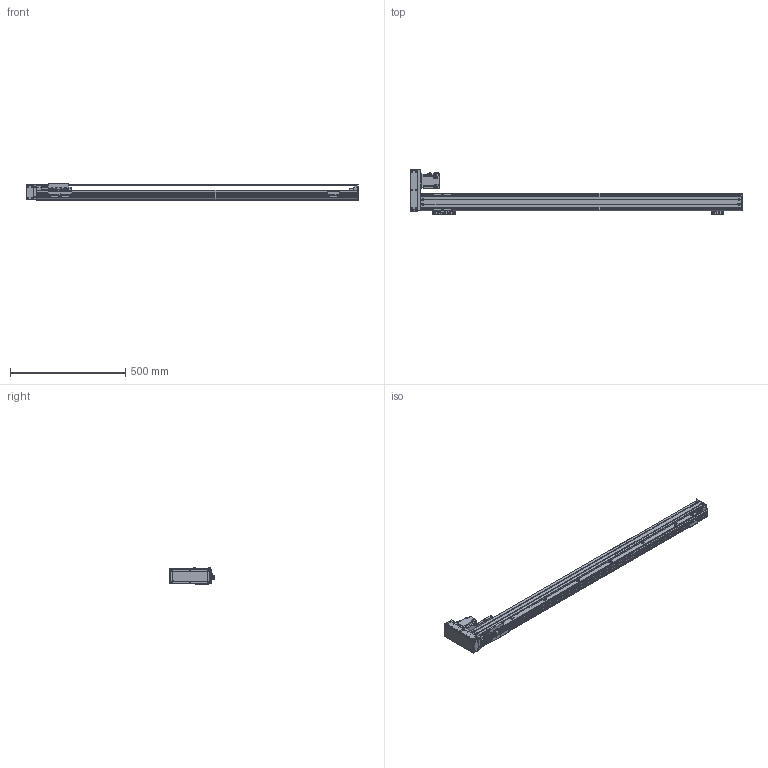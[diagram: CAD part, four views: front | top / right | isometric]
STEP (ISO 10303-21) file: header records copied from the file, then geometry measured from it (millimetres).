
FILE_DESCRIPTION(/* description */ (''),/* implementation_level */ '2;1');
FILE_NAME(/* name */ '\\192.168.0.160\disk1\HAN SHIN Master\B-설계부문\C-표준\B-2024년\BC02-표준도면\+로봇 개선표준도면\홈페이지 표준 도면\홈페이지 최종 작업 폴더\3D\HR\HR75\HR75병렬\좌병렬\HR75-L20-N1B-1200-R10.stp',/* time_stamp */ '2025-01-18T15:26:14+09:00',/* author */ ('user'),/* organization */ (''),/* preprocessor_version */ 'ST-DEVELOPER v18.1',/* originating_system */ 'Autodesk Inventor 2022',/* authorisation */ '');
FILE_SCHEMA (('CONFIG_CONTROL_DESIGN'));
Products named in the file (23): HG75-L20-N1B-0500-R10 - 간소화; BASE; HR75 FRONT BLOCK; HR75 REAR COVER-TENTION; HR75 TENSION REAR BLOCK; HG3UPCOV001; H 15F_BLOCK; HR65,75 SENSOR DOG; HG90STOPPER - 20L; HG90STOPPER - 27L; MOTOR PLATE-200W(MITSUBISHI); HC75-LR-MOTOR PLATE(200W)-사출; 화살표; HR75-LR-BELT COVER(200W); HR75-BELT COVER-COVER2; HR75-BELT COVER-COVER; hg-kr23_; HR65-BELT COVER-COVER3; M-5HL-4; HR75 W TABLE; LMKE1520 NUT; SENSOR BRK(EE-SX674A); EE_SX674A
Assembly tree (28 placements, depth 2):
  HG75-L20-N1B-0500-R10 - 간소화
    BASE
    HR75 FRONT BLOCK
    HR75 REAR COVER-TENTION
    SENSOR BRK(EE-SX674A)  x3
    EE_SX674A  x3
    HR75 TENSION REAR BLOCK
    HG3UPCOV001
    H 15F_BLOCK
    HR65,75 SENSOR DOG
    HG90STOPPER - 20L
    HG90STOPPER - 27L
    MOTOR PLATE-200W(MITSUBISHI)
    HC75-LR-MOTOR PLATE(200W)-사출
    화살표  x2
    HR75-LR-BELT COVER(200W)
    HR75-BELT COVER-COVER2
    HR75-BELT COVER-COVER
    HR65-BELT COVER-COVER3  x2
    hg-kr23_
    M-5HL-4
    HR75 W TABLE
    LMKE1520 NUT
Bounding box: 1439 x 199 x 73 mm (x, y, z)
Volume: 2170382.2 mm3; surface area: 999037.7 mm2
Topology: 28 solids, 28 shells, 2932 faces, 8069 edges, 5333 vertices
Faces by surface type: plane 2185, cylinder 632, cone 107, sphere 8
Full cylindrical faces by diameter (mm): 1.8 x1, 2 x4, 2.013 x2, 2.459 x16, 2.5 x2, 3 x8, 3.242 x46, 3.4 x20, 3.5 x6, 4.134 x50, 4.5 x22, 4.917 x5, 5 x31, 5.5 x34, 5.6 x8, 5.8 x4, 5.9 x8, 6 x4, 6.5 x1, 7 x1, 8 x1, 9.5 x30, 14 x1, 15 x3, 17 x1, 20 x1, 25 x2, 28 x1, 32 x2, 33.7 x1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
Entity records: 88623 total; most frequent: CARTESIAN_POINT 15990, ORIENTED_EDGE 15022, DIRECTION 14294, EDGE_CURVE 7511, LINE 6180, VECTOR 6180, VERTEX_POINT 5001, AXIS2_PLACEMENT_3D 4057
